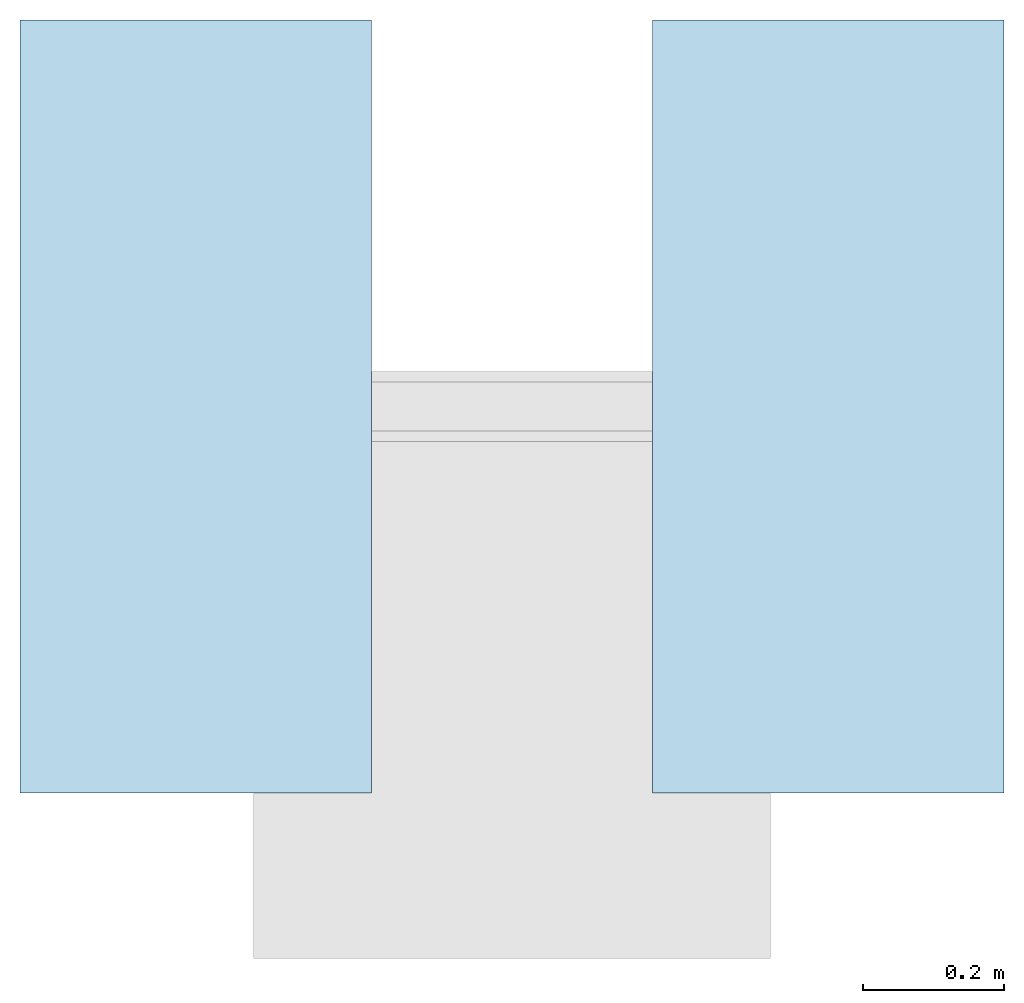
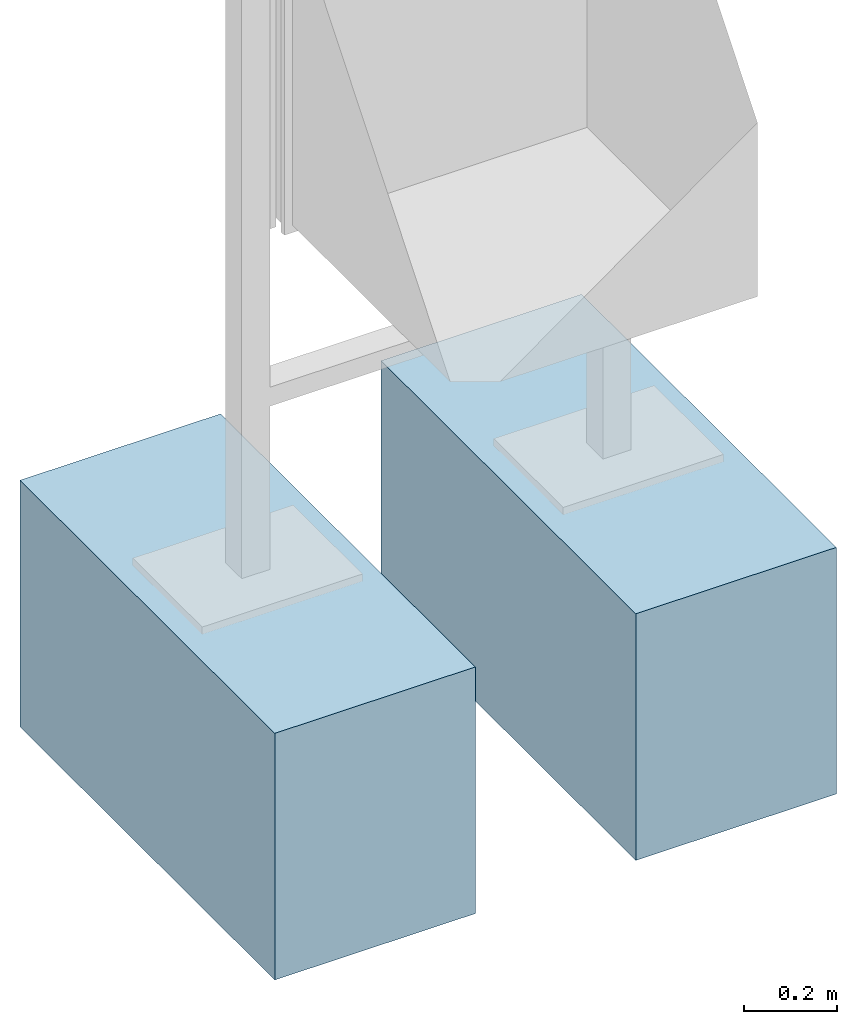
# One storey, incomplete: 2 slabs.
"""IFC4 building model written with IfcOpenShell, lengths in metres."""

from ifc_helpers import new_model, entity, si_unit, converted_unit, direction, frame, frame_2d, origin, origin_2d_with_axis, place, context, subcontext, project, spatial, rectangle, extrude, material, type_object, element, save


model = new_model("IFC4")

# Units and contexts
model_context = context("Model", 3, precision=1e-05, world=origin(), true_north=direction((6.123031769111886e-17, 1.0)))
body_context = subcontext(model_context, "Body", "Model", "MODEL_VIEW")
ifc_project = project(units=[si_unit("LENGTHUNIT", "METRE"), converted_unit("PLANEANGLEUNIT", "DEGREE", entity("IfcPlaneAngleMeasure", 0.017453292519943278), si_unit("PLANEANGLEUNIT", "RADIAN"), dimensions=[0, 0, 0, 0, 0, 0, 0]), si_unit("AREAUNIT", "SQUARE_METRE")], contexts=[model_context])

# Site, building, storey
site_placement = place(None, origin())
site = spatial("IfcSite", under=ifc_project, at=site_placement, Name="Default", CompositionType="ELEMENT")
building_placement = place(site_placement, origin())
building = spatial("IfcBuilding", under=site, at=building_placement, CompositionType="ELEMENT")
storey_placement = place(building_placement, origin())
storey = spatial("IfcBuildingStorey", under=building, at=storey_placement, Name="DB_Bezugshoehe_max_Bahnsteigkante", CompositionType="ELEMENT", Elevation=0.0)

# Slabs
ifc_material = material(Name="DB_Ortbeton", Category="DB_Beton")
slab_type = type_object("IfcSlabType", Name="DB_Vitrine_Fundament_kurz:DB_Vitrine_Fundament_kurz", PredefinedType="BASESLAB", material=ifc_material)
slab_1_placement = place(storey_placement, origin())
element("IfcSlab", 1, at=slab_1_placement, inside=storey, type_object=slab_type, Name="DB_Vitrine_Fundament_kurz:DB_Vitrine_Fundament_kurz", ObjectType="DB_Vitrine_Fundament_kurz:DB_Vitrine_Fundament_kurz", PredefinedType="BASESLAB", context=body_context, shape_type="SweptSolid", body=[
    extrude(rectangle(XDim=1.1, YDim=0.5, at=origin_2d_with_axis()), frame((0.0, 0.0, 0.04999999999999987), z_axis=(0.0, 0.0, 1.0), x_axis=(0.0, 1.0, 0.0)), (0.0, 0.0, 1.0), 0.5999999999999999),
    extrude(rectangle(XDim=0.5, YDim=1.1, at=frame_2d((2.7755575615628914e-17, 0.0), x_axis=(1.0, 0.0))), frame((0.0, 0.0, 0.0), z_axis=(0.0, 0.0, 1.0), x_axis=(-1.0, 0.0, 0.0)), (0.0, 0.0, 1.0), 0.04999999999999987),
])
slab_2_placement = place(storey_placement, origin())
element("IfcSlab", 2, at=slab_2_placement, inside=storey, type_object=slab_type, Name="DB_Vitrine_Fundament_kurz:DB_Vitrine_Fundament_kurz", ObjectType="DB_Vitrine_Fundament_kurz:DB_Vitrine_Fundament_kurz", PredefinedType="BASESLAB", context=body_context, shape_type="SweptSolid", body=[
    extrude(rectangle(XDim=1.1, YDim=0.5, at=origin_2d_with_axis()), frame((0.9000000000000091, 0.0, 0.04999999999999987), z_axis=(0.0, 0.0, 1.0), x_axis=(0.0, 1.0, 0.0)), (0.0, 0.0, 1.0), 0.5999999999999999),
    extrude(rectangle(XDim=0.5, YDim=1.1, at=origin_2d_with_axis()), frame((0.9000000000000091, 0.0, 0.0), z_axis=(0.0, 0.0, 1.0), x_axis=(-1.0, 0.0, 0.0)), (0.0, 0.0, 1.0), 0.04999999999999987),
])

save(model, "model.ifc")
